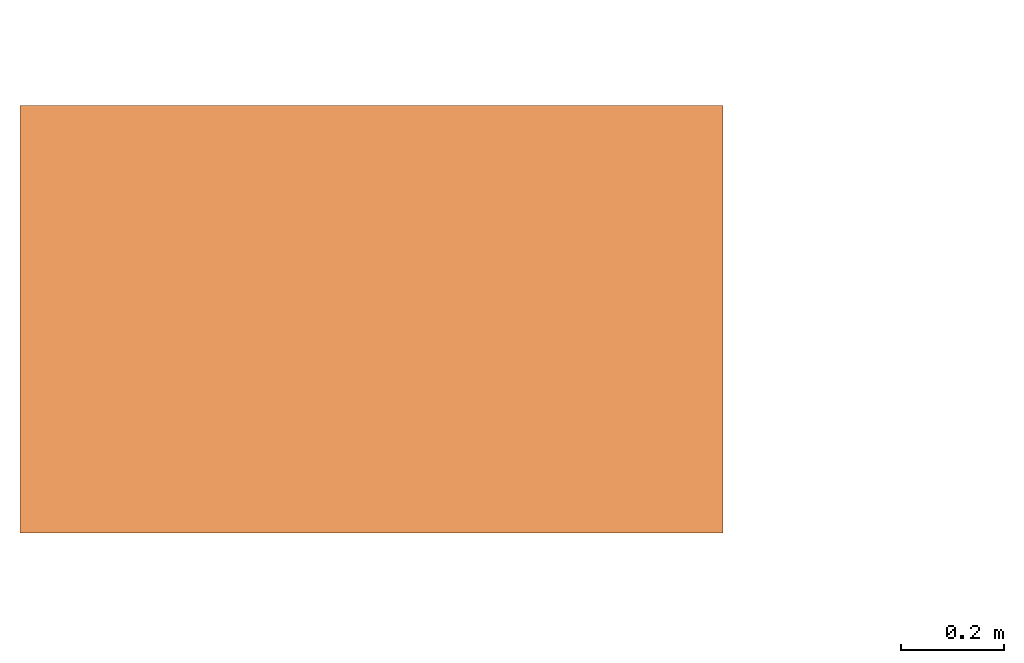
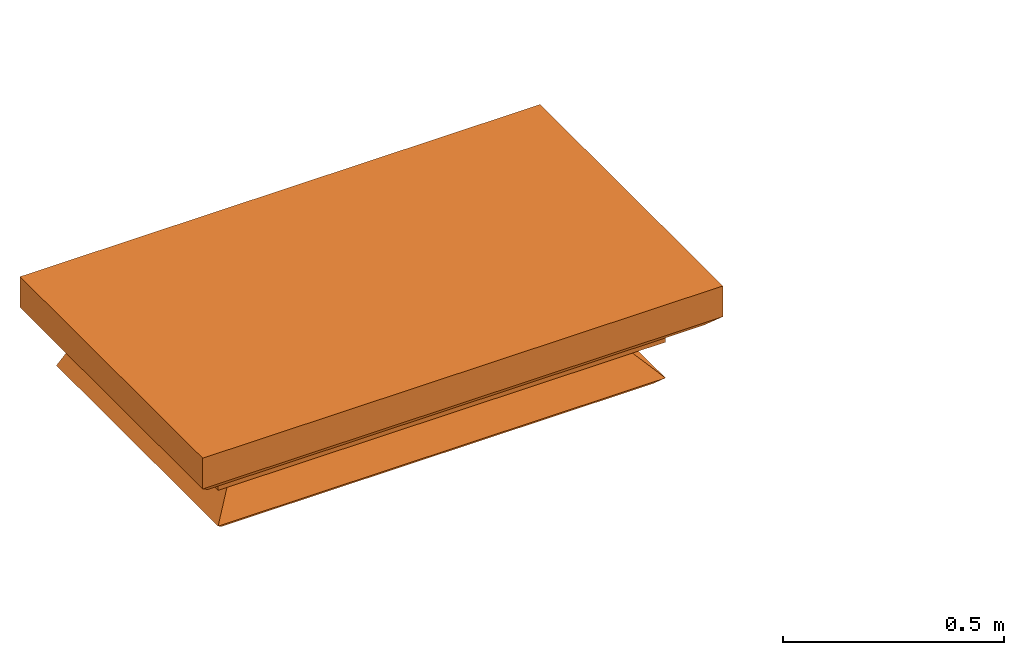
# One storey, part 4 of 4: 1 proxy.
"""IFC2X3 building model written with IfcOpenShell, lengths in metres."""

from ifc_helpers import new_model, entity, si_unit, converted_unit, derived_unit, direction, frame, origin, place, context, subcontext, project, spatial, faceted_brep, source, transform, mapped, material, type_object, type_shapes, element, save


model = new_model("IFC2X3")

# Units and contexts
model_context = context("Model", 3, precision=1e-05, world=origin(), true_north=direction((6.12303176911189e-17, 1.0)))
plan_context = context("Plan", 3, precision=1e-05, world=origin(), true_north=direction((6.12303176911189e-17, 1.0)))
body_context = subcontext(model_context, "Body", "Model", "MODEL_VIEW")
ifc_project = project(units=[si_unit("LENGTHUNIT", "METRE"), si_unit("AREAUNIT", "SQUARE_METRE"), si_unit("VOLUMEUNIT", "CUBIC_METRE"), converted_unit("PLANEANGLEUNIT", "DEGREE", entity("IfcRatioMeasure", 0.0174532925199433), si_unit("PLANEANGLEUNIT", "RADIAN"), dimensions=[0, 0, 0, 0, 0, 0, 0]), si_unit("MASSUNIT", "GRAM", prefix="KILO"), derived_unit("MASSDENSITYUNIT", [(si_unit("MASSUNIT", "GRAM", prefix="KILO"), 1), (si_unit("LENGTHUNIT", "METRE"), -3)]), derived_unit("MOMENTOFINERTIAUNIT", [(si_unit("LENGTHUNIT", "METRE"), 4)]), si_unit("TIMEUNIT", "SECOND"), si_unit("FREQUENCYUNIT", "HERTZ"), si_unit("THERMODYNAMICTEMPERATUREUNIT", "DEGREE_CELSIUS"), derived_unit("THERMALTRANSMITTANCEUNIT", [(si_unit("MASSUNIT", "GRAM", prefix="KILO"), 1), (si_unit("THERMODYNAMICTEMPERATUREUNIT", "KELVIN"), -1), (si_unit("TIMEUNIT", "SECOND"), -3)]), derived_unit("VOLUMETRICFLOWRATEUNIT", [(si_unit("LENGTHUNIT", "METRE"), 3), (si_unit("TIMEUNIT", "SECOND"), -1)]), derived_unit("MASSFLOWRATEUNIT", [(si_unit("MASSUNIT", "GRAM", prefix="KILO"), 1), (si_unit("TIMEUNIT", "SECOND"), -1)]), derived_unit("ROTATIONALFREQUENCYUNIT", [(si_unit("TIMEUNIT", "SECOND"), -1)]), si_unit("ELECTRICCURRENTUNIT", "AMPERE"), si_unit("ELECTRICVOLTAGEUNIT", "VOLT"), si_unit("POWERUNIT", "WATT"), si_unit("FORCEUNIT", "NEWTON", prefix="KILO"), si_unit("ILLUMINANCEUNIT", "LUX"), si_unit("LUMINOUSFLUXUNIT", "LUMEN"), si_unit("LUMINOUSINTENSITYUNIT", "CANDELA"), derived_unit("USERDEFINED", [(si_unit("MASSUNIT", "GRAM", prefix="KILO"), -1), (si_unit("LENGTHUNIT", "METRE"), -2), (si_unit("TIMEUNIT", "SECOND"), 3), (si_unit("LUMINOUSFLUXUNIT", "LUMEN"), 1)]), derived_unit("SOUNDPOWERUNIT", [(si_unit("MASSUNIT", "GRAM", prefix="KILO"), 1), (si_unit("LENGTHUNIT", "METRE"), 2), (si_unit("TIMEUNIT", "SECOND"), -3)]), derived_unit("SOUNDPRESSUREUNIT", [(si_unit("MASSUNIT", "GRAM", prefix="KILO"), 1), (si_unit("LENGTHUNIT", "METRE"), -1), (si_unit("TIMEUNIT", "SECOND"), -2)]), derived_unit("LINEARVELOCITYUNIT", [(si_unit("LENGTHUNIT", "METRE"), 1), (si_unit("TIMEUNIT", "SECOND"), -1)]), si_unit("PRESSUREUNIT", "PASCAL"), derived_unit("USERDEFINED", [(si_unit("LENGTHUNIT", "METRE"), -2), (si_unit("MASSUNIT", "GRAM", prefix="KILO"), 1), (si_unit("TIMEUNIT", "SECOND"), -2)]), derived_unit("LINEARFORCEUNIT", [(si_unit("MASSUNIT", "GRAM", prefix="KILO"), 1), (si_unit("LENGTHUNIT", "METRE"), 1), (si_unit("TIMEUNIT", "SECOND"), -2), (si_unit("LENGTHUNIT", "METRE"), -1)]), derived_unit("PLANARFORCEUNIT", [(si_unit("MASSUNIT", "GRAM", prefix="KILO"), 1), (si_unit("LENGTHUNIT", "METRE"), 1), (si_unit("TIMEUNIT", "SECOND"), -2), (si_unit("LENGTHUNIT", "METRE"), -2)])], contexts=[model_context, plan_context])

# Site, building, storey
site_placement = place(None, frame((-11.0823275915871, 23.8300534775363, 0.0)))
site = spatial("IfcSite", under=ifc_project, at=site_placement, Name="Default", CompositionType="ELEMENT")
building_placement = place(site_placement, origin())
building = spatial("IfcBuilding", under=site, at=building_placement, Name="Englische Kirche", CompositionType="ELEMENT")
storey_placement = place(building_placement, frame((0.0, 0.0, 6.74999999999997)))
storey = spatial("IfcBuildingStorey", under=building, at=storey_placement, Name="Ebene 2 Gallery Stage 1", CompositionType="ELEMENT", Elevation=6.74999999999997)

# Proxy
ifc_material = material(Name="Mauerwerk - Sandstein Rot")
building_element_proxy_type = type_object("IfcBuildingElementProxyType", Name="VergeCopingEnd:VergeCopingEnd", PredefinedType="NOTDEFINED", material=ifc_material)
shared_shape = source(origin(), body_context, "Body", "Brep", [
    faceted_brep([(0.68, 0.66, 0.300000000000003), (-0.68, 0.66, 0.300000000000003), (-0.679999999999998, -0.167578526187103, 0.300000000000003), (0.68, -0.167578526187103, 0.300000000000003), (-0.5637867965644, 0.66, 0.0), (0.563786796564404, 0.660000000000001, 0.0), (0.563786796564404, -0.0513653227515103, 0.0), (-0.563786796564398, -0.0513653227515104, 0.0), (0.68, 0.66, 0.214999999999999), (0.648180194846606, 0.66, 0.183180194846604), (0.585, 0.66, 0.183180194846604), (0.585, 0.66, 0.120208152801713), (0.512421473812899, 0.66, 0.0937917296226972), (0.585, 0.66, 0.021213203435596), (-0.584999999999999, 0.66, 0.0212132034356), (-0.512421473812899, 0.66, 0.0937917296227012), (-0.584999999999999, 0.66, 0.120208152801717), (-0.585, 0.66, 0.183180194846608), (-0.648180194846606, 0.66, 0.183180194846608), (-0.68, 0.66, 0.215000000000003), (0.648180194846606, -0.135758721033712, 0.183180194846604), (0.679999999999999, -0.167578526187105, 0.214999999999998), (-0.648180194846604, -0.135758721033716, 0.183180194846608), (-0.584999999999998, -0.0725785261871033, 0.183180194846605), (0.585, -0.0725785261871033, 0.183180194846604), (0.585, -0.072578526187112, 0.120208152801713), (0.512421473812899, 0.0, 0.0937917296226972), (0.585, -0.0725785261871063, 0.021213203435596), (-0.679999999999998, -0.167578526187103, 0.215000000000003), (-0.584999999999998, -0.0725785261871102, 0.0212132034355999), (-0.512421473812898, 0.0, 0.0937917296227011), (-0.584999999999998, -0.0725785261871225, 0.120208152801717)], [[[0, 1, 2, 3]], [[4, 5, 6, 7]], [[8, 9, 10, 11, 12, 13, 5, 4, 14, 15, 16, 17, 18, 19, 1, 0]], [[20, 9, 8, 21]], [[10, 9, 20, 22, 18, 17, 23, 24]], [[11, 10, 24, 25]], [[12, 11, 25, 26]], [[13, 12, 26, 27]], [[5, 13, 27, 6]], [[8, 0, 3, 21]], [[1, 19, 28, 2]], [[14, 4, 7, 29]], [[15, 14, 29, 30]], [[16, 15, 30, 31]], [[17, 16, 31, 23]], [[19, 18, 22, 28]], [[28, 21, 3, 2]], [[27, 29, 7, 6]], [[29, 27, 26, 30]], [[30, 26, 25, 31]], [[31, 25, 24, 23]], [[21, 28, 22, 20]]]),
])
type_shapes(building_element_proxy_type, [shared_shape])
proxy_placement = place(storey_placement, frame((0.015945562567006, 9.2848900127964, 3.23900000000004)))
element("IfcBuildingElementProxy", 1, at=proxy_placement, inside=storey, type_object=building_element_proxy_type, material=ifc_material, Name="VergeCopingEnd:VergeCopingEnd", ObjectType="VergeCopingEnd:VergeCopingEnd", context=body_context, shape_type="MappedRepresentation", body=[
    mapped(shared_shape, transform((0.0, 0.0, 0.0), scale=1.0)),
])

save(model, "model.ifc")
